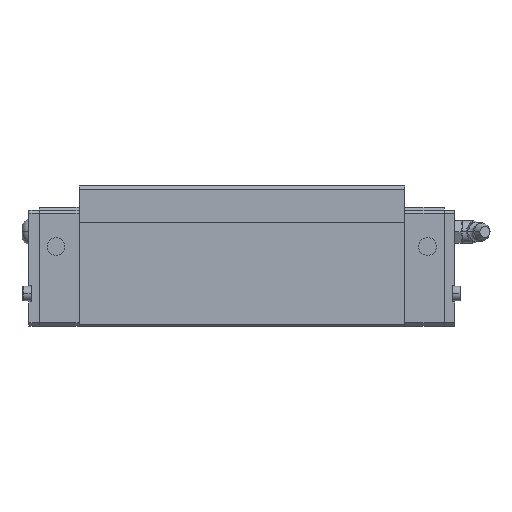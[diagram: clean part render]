
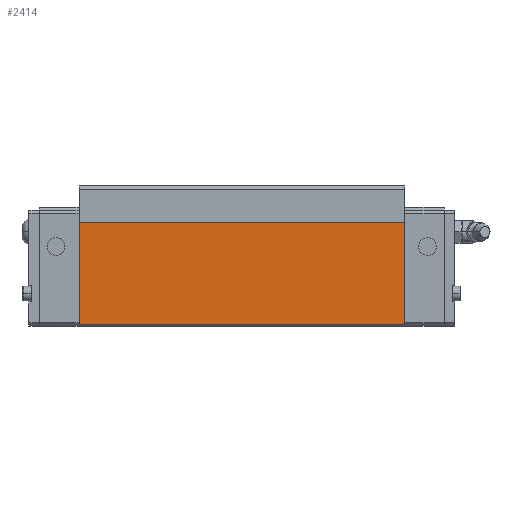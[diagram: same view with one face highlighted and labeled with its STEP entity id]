
A CAD part, left-side view. The second image highlights one B-rep face of the part: STEP entity #2414.
In plain terms, the highlighted planar face has unit normal (-1, 0, 0).
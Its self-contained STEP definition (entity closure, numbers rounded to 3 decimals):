
#2038=EDGE_CURVE('',#2778,#3572,#5147,.T.);
#2118=EDGE_CURVE('',#3572,#4282,#5239,.T.);
#2376=EDGE_CURVE('',#2778,#3712,#5513,.T.);
#2414=ADVANCED_FACE('',(#5556),#5557,.T.);
#2778=VERTEX_POINT('',#5959);
#3186=EDGE_CURVE('',#4282,#3712,#6403,.T.);
#3572=VERTEX_POINT('',#6835);
#3712=VERTEX_POINT('',#6988);
#4282=VERTEX_POINT('',#7623);
#5147=LINE('',#8770,#8771);
#5239=LINE('',#8904,#8905);
#5513=LINE('',#9389,#9390);
#5556=FACE_OUTER_BOUND('',#9449,.T.);
#5557=PLANE('',#9450);
#5959=CARTESIAN_POINT('',(-49.125,24.0,62.5));
#6403=LINE('',#10773,#10774);
#6835=CARTESIAN_POINT('',(-49.125,24.0,13.625));
#6988=CARTESIAN_POINT('',(-49.125,179.8,62.5));
#7623=CARTESIAN_POINT('',(-49.125,179.8,13.625));
#8770=CARTESIAN_POINT('',(-49.125,24.0,34.5));
#8771=VECTOR('',#13673,1.0);
#8904=CARTESIAN_POINT('',(-49.125,140.85,13.625));
#8905=VECTOR('',#13786,1.0);
#9389=CARTESIAN_POINT('',(-49.125,101.9,62.5));
#9390=VECTOR('',#14036,1.0);
#9449=EDGE_LOOP('',(#14091,#14092,#14093,#14094));
#9450=AXIS2_PLACEMENT_3D('',#14095,#14096,#14097);
#10773=CARTESIAN_POINT('',(-49.125,179.8,34.5));
#10774=VECTOR('',#15022,1.0);
#13673=DIRECTION('',(-0.0,-0.0,-1.0));
#13786=DIRECTION('',(0.0,1.0,-0.0));
#14036=DIRECTION('',(0.0,1.0,0.0));
#14091=ORIENTED_EDGE('',*,*,#3186,.F.);
#14092=ORIENTED_EDGE('',*,*,#2118,.F.);
#14093=ORIENTED_EDGE('',*,*,#2038,.F.);
#14094=ORIENTED_EDGE('',*,*,#2376,.T.);
#14095=CARTESIAN_POINT('',(-49.125,101.9,22.5));
#14096=DIRECTION('',(-1.0,0.0,0.0));
#14097=DIRECTION('',(0.0,0.0,1.0));
#15022=DIRECTION('',(0.0,0.0,1.0));
